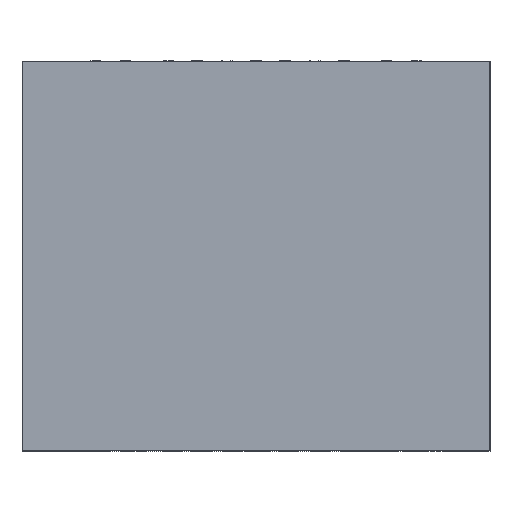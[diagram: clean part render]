
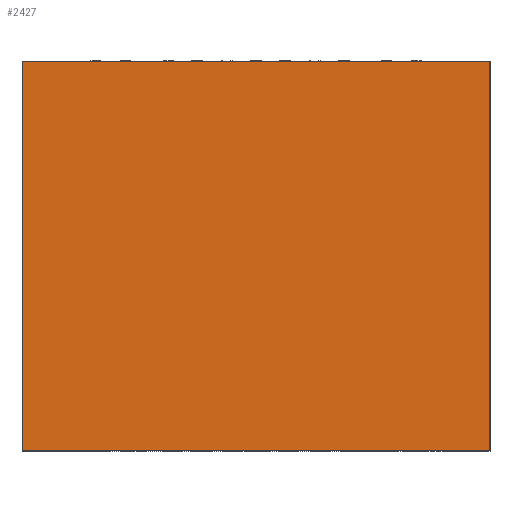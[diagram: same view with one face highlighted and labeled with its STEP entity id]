
A CAD part, front view. The second image highlights one B-rep face of the part: STEP entity #2427.
In plain terms, the highlighted planar face has unit normal (0, -1, 0).
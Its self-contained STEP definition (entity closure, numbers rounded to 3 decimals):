
#31 = CARTESIAN_POINT ( 'NONE',  ( -15.712, -18.701, -2.749 ) ) ;
#158 = CARTESIAN_POINT ( 'NONE',  ( 19.086, -18.701, -2.749 ) ) ;
#212 = VECTOR ( 'NONE', #2857, 1000. ) ;
#380 = ORIENTED_EDGE ( 'NONE', *, *, #3694, .F. ) ;
#458 = DIRECTION ( 'NONE',  ( 1., 0., 0. ) ) ;
#537 = VECTOR ( 'NONE', #3623, 1000. ) ;
#676 = EDGE_CURVE ( 'NONE', #3741, #802, #772, .T. ) ;
#695 = AXIS2_PLACEMENT_3D ( 'NONE', #2091, #1049, #3366 ) ;
#711 = CARTESIAN_POINT ( 'NONE',  ( -15.712, -18.701, 26.207 ) ) ;
#729 = EDGE_CURVE ( 'NONE', #802, #794, #2910, .T. ) ;
#772 = LINE ( 'NONE', #3813, #4232 ) ;
#782 = CARTESIAN_POINT ( 'NONE',  ( 19.086, -18.701, -2.749 ) ) ;
#794 = VERTEX_POINT ( 'NONE', #782 ) ;
#802 = VERTEX_POINT ( 'NONE', #1654 ) ;
#1049 = DIRECTION ( 'NONE',  ( 0., 1., 0. ) ) ;
#1343 = ORIENTED_EDGE ( 'NONE', *, *, #676, .F. ) ;
#1400 = FACE_OUTER_BOUND ( 'NONE', #4224, .T. ) ;
#1654 = CARTESIAN_POINT ( 'NONE',  ( 19.086, -18.701, 26.207 ) ) ;
#1776 = VECTOR ( 'NONE', #3038, 1000. ) ;
#2020 = CARTESIAN_POINT ( 'NONE',  ( -15.712, -18.701, -2.749 ) ) ;
#2022 = EDGE_CURVE ( 'NONE', #794, #3522, #3209, .T. ) ;
#2091 = CARTESIAN_POINT ( 'NONE',  ( -15.712, -18.701, 26.207 ) ) ;
#2427 = ADVANCED_FACE ( 'NONE', ( #1400 ), #3866, .F. ) ;
#2627 = CARTESIAN_POINT ( 'NONE',  ( -15.712, -18.701, -2.749 ) ) ;
#2857 = DIRECTION ( 'NONE',  ( 0., 0., -1. ) ) ;
#2910 = LINE ( 'NONE', #158, #212 ) ;
#3038 = DIRECTION ( 'NONE',  ( 0., 0., 1. ) ) ;
#3209 = LINE ( 'NONE', #2627, #537 ) ;
#3235 = ORIENTED_EDGE ( 'NONE', *, *, #2022, .F. ) ;
#3366 = DIRECTION ( 'NONE',  ( 0., 0., 1. ) ) ;
#3522 = VERTEX_POINT ( 'NONE', #31 ) ;
#3545 = ORIENTED_EDGE ( 'NONE', *, *, #729, .F. ) ;
#3623 = DIRECTION ( 'NONE',  ( -1., 0., 0. ) ) ;
#3634 = LINE ( 'NONE', #2020, #1776 ) ;
#3694 = EDGE_CURVE ( 'NONE', #3522, #3741, #3634, .T. ) ;
#3741 = VERTEX_POINT ( 'NONE', #711 ) ;
#3813 = CARTESIAN_POINT ( 'NONE',  ( -15.712, -18.701, 26.207 ) ) ;
#3866 = PLANE ( 'NONE',  #695 ) ;
#4224 = EDGE_LOOP ( 'NONE', ( #380, #3235, #3545, #1343 ) ) ;
#4232 = VECTOR ( 'NONE', #458, 1000. ) ;
